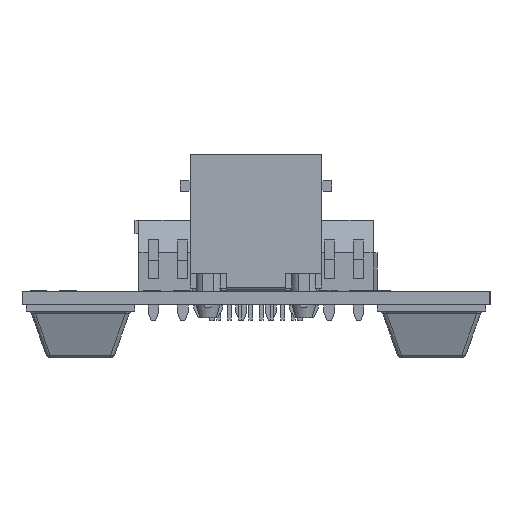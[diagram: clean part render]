
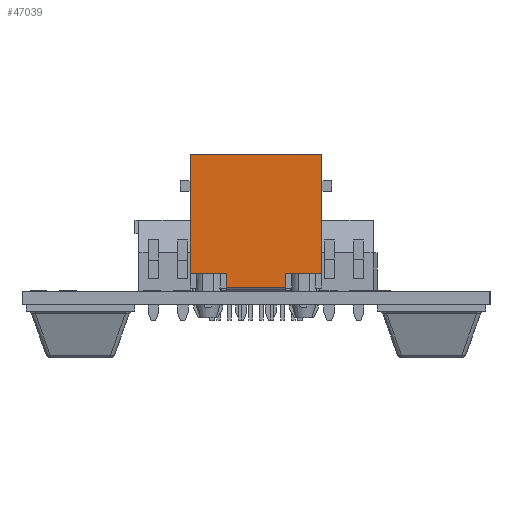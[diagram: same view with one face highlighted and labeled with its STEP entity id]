
A CAD part, left-side view. The second image highlights one B-rep face of the part: STEP entity #47039.
In plain terms, the highlighted planar face has unit normal (-1, 0, 0).
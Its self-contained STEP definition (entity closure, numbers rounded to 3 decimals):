
#674 = VECTOR ( 'NONE', #88540, 1000. ) ;
#3443 = AXIS2_PLACEMENT_3D ( 'NONE', #4134, #37722, #81579 ) ;
#4134 = CARTESIAN_POINT ( 'NONE',  ( 4.064, 36.129, 18.301 ) ) ;
#6327 = EDGE_CURVE ( 'NONE', #9767, #38987, #27067, .T. ) ;
#8139 = VERTEX_POINT ( 'NONE', #94698 ) ;
#9767 = VERTEX_POINT ( 'NONE', #37672 ) ;
#11152 = CARTESIAN_POINT ( 'NONE',  ( 4.064, 35.814, 9.982 ) ) ;
#11985 = EDGE_CURVE ( 'NONE', #38354, #53277, #23913, .T. ) ;
#12632 = CARTESIAN_POINT ( 'NONE',  ( 4.064, 20.066, 3.759 ) ) ;
#18688 = VERTEX_POINT ( 'NONE', #51721 ) ;
#18736 = LINE ( 'NONE', #95125, #48775 ) ;
#22121 = VECTOR ( 'NONE', #96186, 1000. ) ;
#22164 = VECTOR ( 'NONE', #28307, 1000. ) ;
#22582 = DIRECTION ( 'NONE',  ( 0., 0., -1. ) ) ;
#22854 = LINE ( 'NONE', #66430, #33762 ) ;
#23538 = LINE ( 'NONE', #60032, #22121 ) ;
#23901 = EDGE_CURVE ( 'NONE', #74814, #9767, #45125, .T. ) ;
#23913 = LINE ( 'NONE', #95800, #674 ) ;
#24325 = VECTOR ( 'NONE', #100797, 1000. ) ;
#27067 = LINE ( 'NONE', #56513, #24325 ) ;
#28307 = DIRECTION ( 'NONE',  ( 0., 0., -1. ) ) ;
#28963 = PLANE ( 'NONE',  #3443 ) ;
#32979 = EDGE_LOOP ( 'NONE', ( #112375, #77094, #83329, #100826, #78123, #41278, #100849, #33832 ) ) ;
#33762 = VECTOR ( 'NONE', #22582, 1000. ) ;
#33832 = ORIENTED_EDGE ( 'NONE', *, *, #95140, .F. ) ;
#36405 = VECTOR ( 'NONE', #96569, 1000. ) ;
#37672 = CARTESIAN_POINT ( 'NONE',  ( 4.064, 24.384, 2.068 ) ) ;
#37722 = DIRECTION ( 'NONE',  ( -1., 0., 0. ) ) ;
#38354 = VERTEX_POINT ( 'NONE', #51950 ) ;
#38438 = CARTESIAN_POINT ( 'NONE',  ( 4.064, 31.496, 2.068 ) ) ;
#38987 = VERTEX_POINT ( 'NONE', #88130 ) ;
#40531 = CARTESIAN_POINT ( 'NONE',  ( 4.064, 27.94, 3.759 ) ) ;
#41278 = ORIENTED_EDGE ( 'NONE', *, *, #54592, .F. ) ;
#45125 = LINE ( 'NONE', #91340, #110666 ) ;
#45759 = EDGE_CURVE ( 'NONE', #18688, #53277, #56278, .T. ) ;
#47039 = ADVANCED_FACE ( 'NONE', ( #103416 ), #28963, .T. ) ;
#47882 = VERTEX_POINT ( 'NONE', #12632 ) ;
#48775 = VECTOR ( 'NONE', #113071, 1000. ) ;
#51721 = CARTESIAN_POINT ( 'NONE',  ( 4.064, 35.814, 17.983 ) ) ;
#51950 = CARTESIAN_POINT ( 'NONE',  ( 4.064, 31.496, 3.759 ) ) ;
#53277 = VERTEX_POINT ( 'NONE', #81630 ) ;
#54592 = EDGE_CURVE ( 'NONE', #47882, #38987, #59655, .T. ) ;
#56278 = LINE ( 'NONE', #11152, #22164 ) ;
#56513 = CARTESIAN_POINT ( 'NONE',  ( 4.064, 24.384, 2.679 ) ) ;
#59655 = LINE ( 'NONE', #40531, #36405 ) ;
#60032 = CARTESIAN_POINT ( 'NONE',  ( 4.064, 27.94, 17.983 ) ) ;
#64919 = EDGE_CURVE ( 'NONE', #47882, #8139, #18736, .T. ) ;
#66430 = CARTESIAN_POINT ( 'NONE',  ( 4.064, 31.496, 2.679 ) ) ;
#73190 = EDGE_CURVE ( 'NONE', #38354, #74814, #22854, .T. ) ;
#74814 = VERTEX_POINT ( 'NONE', #38438 ) ;
#75707 = DIRECTION ( 'NONE',  ( 0., -1., 0. ) ) ;
#77094 = ORIENTED_EDGE ( 'NONE', *, *, #11985, .F. ) ;
#78123 = ORIENTED_EDGE ( 'NONE', *, *, #6327, .T. ) ;
#81579 = DIRECTION ( 'NONE',  ( 0., 0., -1. ) ) ;
#81630 = CARTESIAN_POINT ( 'NONE',  ( 4.064, 35.814, 3.759 ) ) ;
#83329 = ORIENTED_EDGE ( 'NONE', *, *, #73190, .T. ) ;
#88130 = CARTESIAN_POINT ( 'NONE',  ( 4.064, 24.384, 3.759 ) ) ;
#88540 = DIRECTION ( 'NONE',  ( 0., 1., 0. ) ) ;
#91340 = CARTESIAN_POINT ( 'NONE',  ( 4.064, 27.94, 2.068 ) ) ;
#94698 = CARTESIAN_POINT ( 'NONE',  ( 4.064, 20.066, 17.983 ) ) ;
#95125 = CARTESIAN_POINT ( 'NONE',  ( 4.064, 20.066, 10.026 ) ) ;
#95140 = EDGE_CURVE ( 'NONE', #18688, #8139, #23538, .T. ) ;
#95800 = CARTESIAN_POINT ( 'NONE',  ( 4.064, 27.94, 3.759 ) ) ;
#96186 = DIRECTION ( 'NONE',  ( 0., -1., 0. ) ) ;
#96569 = DIRECTION ( 'NONE',  ( 0., 1., 0. ) ) ;
#100797 = DIRECTION ( 'NONE',  ( 0., 0., 1. ) ) ;
#100826 = ORIENTED_EDGE ( 'NONE', *, *, #23901, .T. ) ;
#100849 = ORIENTED_EDGE ( 'NONE', *, *, #64919, .T. ) ;
#103416 = FACE_OUTER_BOUND ( 'NONE', #32979, .T. ) ;
#110666 = VECTOR ( 'NONE', #75707, 1000. ) ;
#112375 = ORIENTED_EDGE ( 'NONE', *, *, #45759, .T. ) ;
#113071 = DIRECTION ( 'NONE',  ( 0., 0., 1. ) ) ;
